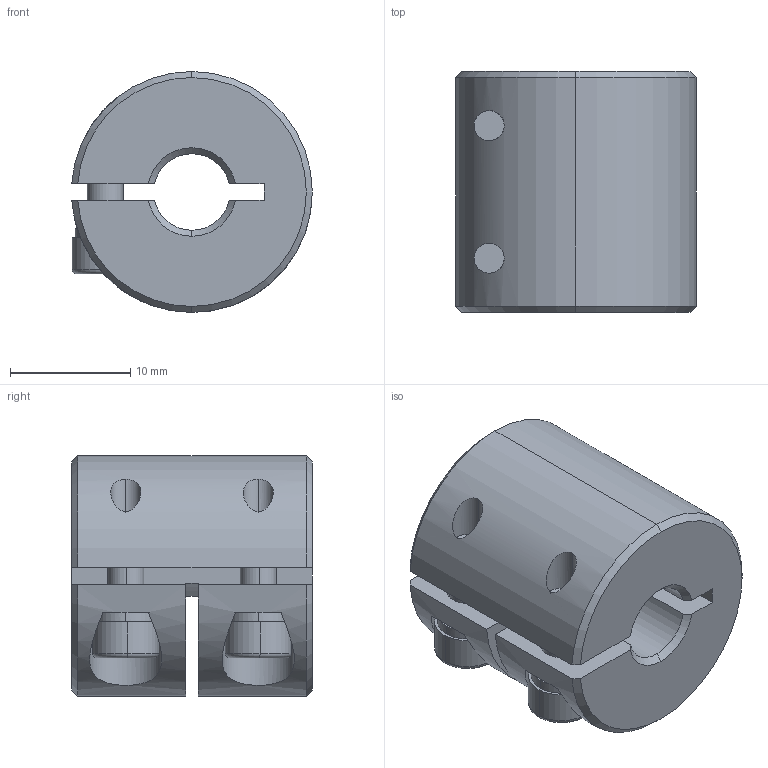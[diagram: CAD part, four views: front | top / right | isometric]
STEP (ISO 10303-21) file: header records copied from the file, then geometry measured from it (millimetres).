
FILE_DESCRIPTION (( 'STEP AP203' ), '1' );
FILE_NAME ('LL-B-D20L20-6.35-6.35.STEP', '2021-11-03T05:27:07', ( '' ), ( '' ), 'SwSTEP 2.0', 'SolidWorks 2018', '' );
FILE_SCHEMA (( 'CONFIG_CONTROL_DESIGN' ));
Length unit declared in the file: millimetre
Products named in the file (1): LL-B-D20L20-6.35-6.35
Bounding box: 19.98 x 20 x 20 mm (x, y, z)
Volume: 5160.9 mm3; surface area: 3120.6 mm2
Topology: 1 solids, 1 shells, 110 faces, 283 edges, 177 vertices
Faces by surface type: plane 51, cylinder 39, cone 16, torus 4
Entity records: 3593 total; most frequent: CARTESIAN_POINT 801, DIRECTION 594, ORIENTED_EDGE 558, EDGE_CURVE 279, AXIS2_PLACEMENT_3D 230, VERTEX_POINT 177, LINE 134, VECTOR 134
